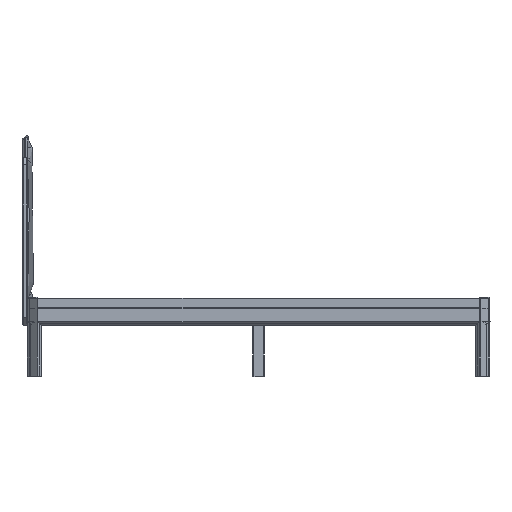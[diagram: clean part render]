
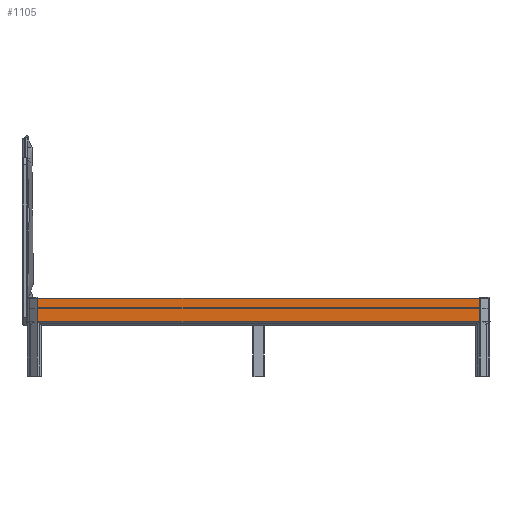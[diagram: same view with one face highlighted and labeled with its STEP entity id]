
A CAD part, left-side view. The second image highlights one B-rep face of the part: STEP entity #1105.
In plain terms, the highlighted planar face has unit normal (-1, 0, 0).
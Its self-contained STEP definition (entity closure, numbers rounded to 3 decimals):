
#1105=ADVANCED_FACE('',(#2805),#25178,.T.);
#2805=FACE_OUTER_BOUND('',#4509,.T.);
#4509=EDGE_LOOP('',(#7283,#7284,#7285,#7286,#7287,#7288));
#7283=ORIENTED_EDGE('',*,*,#14901,.F.);
#7284=ORIENTED_EDGE('',*,*,#14880,.F.);
#7285=ORIENTED_EDGE('',*,*,#14887,.F.);
#7286=ORIENTED_EDGE('',*,*,#14891,.F.);
#7287=ORIENTED_EDGE('',*,*,#14912,.T.);
#7288=ORIENTED_EDGE('',*,*,#14908,.T.);
#14880=EDGE_CURVE('',#22915,#22916,#21066,.T.);
#14887=EDGE_CURVE('',#22924,#22915,#21073,.T.);
#14891=EDGE_CURVE('',#22927,#22924,#21075,.T.);
#14901=EDGE_CURVE('',#22916,#22933,#18658,.T.);
#14908=EDGE_CURVE('',#22937,#22933,#21084,.T.);
#14912=EDGE_CURVE('',#22927,#22937,#21086,.T.);
#18658=(
BOUNDED_CURVE()
B_SPLINE_CURVE(1,(#44879,#44880),.UNSPECIFIED.,.F.,.F.)
B_SPLINE_CURVE_WITH_KNOTS((2,2),(0.,1918.396),.UNSPECIFIED.)
CURVE()
GEOMETRIC_REPRESENTATION_ITEM()
RATIONAL_B_SPLINE_CURVE((1.,1.))
REPRESENTATION_ITEM('')
);
#21066=B_SPLINE_CURVE_WITH_KNOTS('',1,(#44804,#44805),.UNSPECIFIED.,.F.,
 .F.,(2,2),(0.,100.963),.UNSPECIFIED.);
#21073=B_SPLINE_CURVE_WITH_KNOTS('',1,(#44846,#44847),.UNSPECIFIED.,.F.,
 .F.,(2,2),(0.,0.017),.UNSPECIFIED.);
#21075=B_SPLINE_CURVE_WITH_KNOTS('',1,(#44854,#44855),.UNSPECIFIED.,.F.,
 .F.,(2,2),(0.,1918.371),.UNSPECIFIED.);
#21084=B_SPLINE_CURVE_WITH_KNOTS('',1,(#44896,#44897),.UNSPECIFIED.,.F.,
 .F.,(2,2),(0.,100.963),.UNSPECIFIED.);
#21086=B_SPLINE_CURVE_WITH_KNOTS('',1,(#44906,#44907),.UNSPECIFIED.,.F.,
 .F.,(2,2),(-0.017,0.),.UNSPECIFIED.);
#22915=VERTEX_POINT('',#44777);
#22916=VERTEX_POINT('',#44778);
#22924=VERTEX_POINT('',#44786);
#22927=VERTEX_POINT('',#44789);
#22933=VERTEX_POINT('',#44795);
#22937=VERTEX_POINT('',#44799);
#25178=PLANE('',#26373);
#26373=AXIS2_PLACEMENT_3D('',#44770,#27751,$);
#27751=DIRECTION('',(-1.,0.,0.));
#44770=CARTESIAN_POINT('',(-4605.5,1154.552,227.32));
#44777=CARTESIAN_POINT('',(-4605.5,962.7,237.441));
#44778=CARTESIAN_POINT('',(-4605.5,962.7,338.404));
#44786=CARTESIAN_POINT('',(-4605.5,962.688,237.429));
#44789=CARTESIAN_POINT('',(-4605.5,-955.684,237.429));
#44795=CARTESIAN_POINT('',(-4605.5,-955.696,338.404));
#44799=CARTESIAN_POINT('',(-4605.5,-955.696,237.441));
#44804=CARTESIAN_POINT('',(-4605.5,962.7,237.441));
#44805=CARTESIAN_POINT('',(-4605.5,962.7,338.404));
#44846=CARTESIAN_POINT('',(-4605.5,962.688,237.429));
#44847=CARTESIAN_POINT('',(-4605.5,962.7,237.441));
#44854=CARTESIAN_POINT('',(-4605.5,-955.684,237.429));
#44855=CARTESIAN_POINT('',(-4605.5,962.688,237.429));
#44879=CARTESIAN_POINT('',(-4605.5,962.7,338.404));
#44880=CARTESIAN_POINT('',(-4605.5,-955.696,338.404));
#44896=CARTESIAN_POINT('',(-4605.5,-955.696,237.441));
#44897=CARTESIAN_POINT('',(-4605.5,-955.696,338.404));
#44906=CARTESIAN_POINT('',(-4605.5,-955.684,237.429));
#44907=CARTESIAN_POINT('',(-4605.5,-955.696,237.441));
